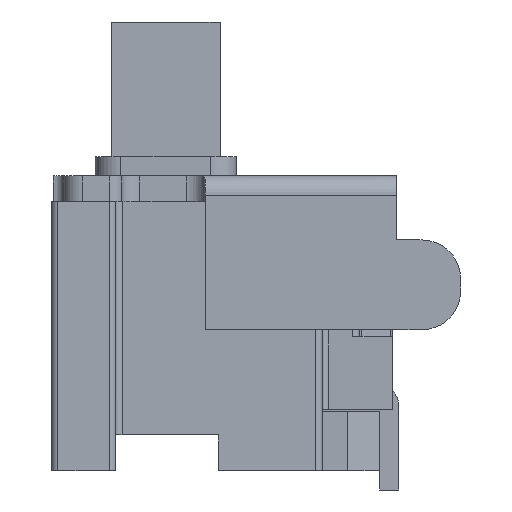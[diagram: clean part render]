
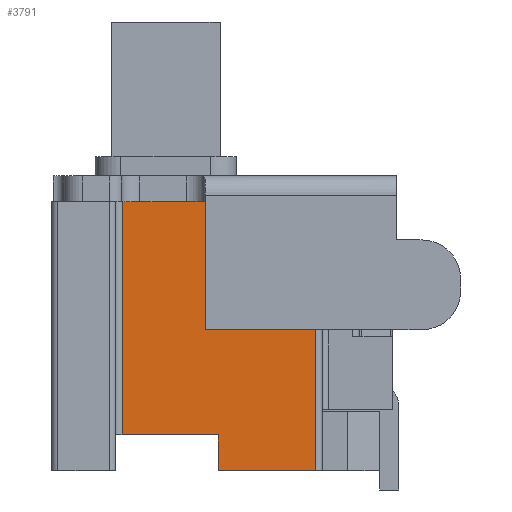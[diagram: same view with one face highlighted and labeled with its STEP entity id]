
A CAD part, left-side view. The second image highlights one B-rep face of the part: STEP entity #3791.
In plain terms, the highlighted planar face has unit normal (-1, 0, 0).
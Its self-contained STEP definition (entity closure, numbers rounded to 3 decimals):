
#133 = CARTESIAN_POINT ( 'NONE',  ( -2.075, -0.73, 2.1 ) ) ;
#237 = ORIENTED_EDGE ( 'NONE', *, *, #17016, .T. ) ;
#365 = CARTESIAN_POINT ( 'NONE',  ( -2.075, -0.73, 0. ) ) ;
#739 = CARTESIAN_POINT ( 'NONE',  ( -2.075, 0.83, 2.1 ) ) ;
#1576 = DIRECTION ( 'NONE',  ( 0., 0., 1. ) ) ;
#1928 = VERTEX_POINT ( 'NONE', #15006 ) ;
#2034 = ORIENTED_EDGE ( 'NONE', *, *, #5732, .F. ) ;
#2147 = VECTOR ( 'NONE', #10476, 1000. ) ;
#3076 = VERTEX_POINT ( 'NONE', #365 ) ;
#3791 = ADVANCED_FACE ( 'NONE', ( #9457 ), #14923, .F. ) ;
#4307 = CARTESIAN_POINT ( 'NONE',  ( -2.075, 0.78, 0.28 ) ) ;
#4384 = VERTEX_POINT ( 'NONE', #15729 ) ;
#4592 = ORIENTED_EDGE ( 'NONE', *, *, #10356, .T. ) ;
#5182 = DIRECTION ( 'NONE',  ( 0., 1., 0. ) ) ;
#5732 = EDGE_CURVE ( 'NONE', #1928, #11500, #16621, .T. ) ;
#6061 = CARTESIAN_POINT ( 'NONE',  ( -2.075, 0.78, 0.28 ) ) ;
#6252 = LINE ( 'NONE', #7927, #17585 ) ;
#6380 = ORIENTED_EDGE ( 'NONE', *, *, #7307, .F. ) ;
#7307 = EDGE_CURVE ( 'NONE', #3076, #8372, #17422, .T. ) ;
#7549 = LINE ( 'NONE', #6061, #7652 ) ;
#7652 = VECTOR ( 'NONE', #11706, 1000. ) ;
#7927 = CARTESIAN_POINT ( 'NONE',  ( -2.075, 0.03, 0.28 ) ) ;
#8034 = AXIS2_PLACEMENT_3D ( 'NONE', #9369, #13257, #17527 ) ;
#8372 = VERTEX_POINT ( 'NONE', #11092 ) ;
#9369 = CARTESIAN_POINT ( 'NONE',  ( -2.075, 0.83, 0. ) ) ;
#9457 = FACE_OUTER_BOUND ( 'NONE', #10592, .T. ) ;
#10356 = EDGE_CURVE ( 'NONE', #10774, #4384, #13699, .T. ) ;
#10476 = DIRECTION ( 'NONE',  ( 0., 1., 0. ) ) ;
#10592 = EDGE_LOOP ( 'NONE', ( #4592, #12222, #2034, #11985, #6380, #237 ) ) ;
#10774 = VERTEX_POINT ( 'NONE', #133 ) ;
#11092 = CARTESIAN_POINT ( 'NONE',  ( -2.075, 0.03, 0. ) ) ;
#11444 = VECTOR ( 'NONE', #5182, 1000. ) ;
#11486 = LINE ( 'NONE', #14277, #16484 ) ;
#11500 = VERTEX_POINT ( 'NONE', #4307 ) ;
#11706 = DIRECTION ( 'NONE',  ( 0., 0., -1. ) ) ;
#11985 = ORIENTED_EDGE ( 'NONE', *, *, #13512, .T. ) ;
#12222 = ORIENTED_EDGE ( 'NONE', *, *, #16318, .T. ) ;
#12540 = CARTESIAN_POINT ( 'NONE',  ( -2.075, 0.83, 0.28 ) ) ;
#13257 = DIRECTION ( 'NONE',  ( 1., 0., 0. ) ) ;
#13396 = VECTOR ( 'NONE', #13582, 1000. ) ;
#13451 = CARTESIAN_POINT ( 'NONE',  ( -2.075, 0.83, 0. ) ) ;
#13512 = EDGE_CURVE ( 'NONE', #1928, #8372, #6252, .T. ) ;
#13582 = DIRECTION ( 'NONE',  ( 0., 1., 0. ) ) ;
#13699 = LINE ( 'NONE', #739, #11444 ) ;
#14277 = CARTESIAN_POINT ( 'NONE',  ( -2.075, -0.73, 0. ) ) ;
#14923 = PLANE ( 'NONE',  #8034 ) ;
#15006 = CARTESIAN_POINT ( 'NONE',  ( -2.075, 0.03, 0.28 ) ) ;
#15729 = CARTESIAN_POINT ( 'NONE',  ( -2.075, 0.78, 2.1 ) ) ;
#16256 = DIRECTION ( 'NONE',  ( 0., 0., -1. ) ) ;
#16318 = EDGE_CURVE ( 'NONE', #4384, #11500, #7549, .T. ) ;
#16484 = VECTOR ( 'NONE', #1576, 1000. ) ;
#16621 = LINE ( 'NONE', #12540, #13396 ) ;
#17016 = EDGE_CURVE ( 'NONE', #3076, #10774, #11486, .T. ) ;
#17422 = LINE ( 'NONE', #13451, #2147 ) ;
#17527 = DIRECTION ( 'NONE',  ( 0., 1., 0. ) ) ;
#17585 = VECTOR ( 'NONE', #16256, 1000. ) ;
